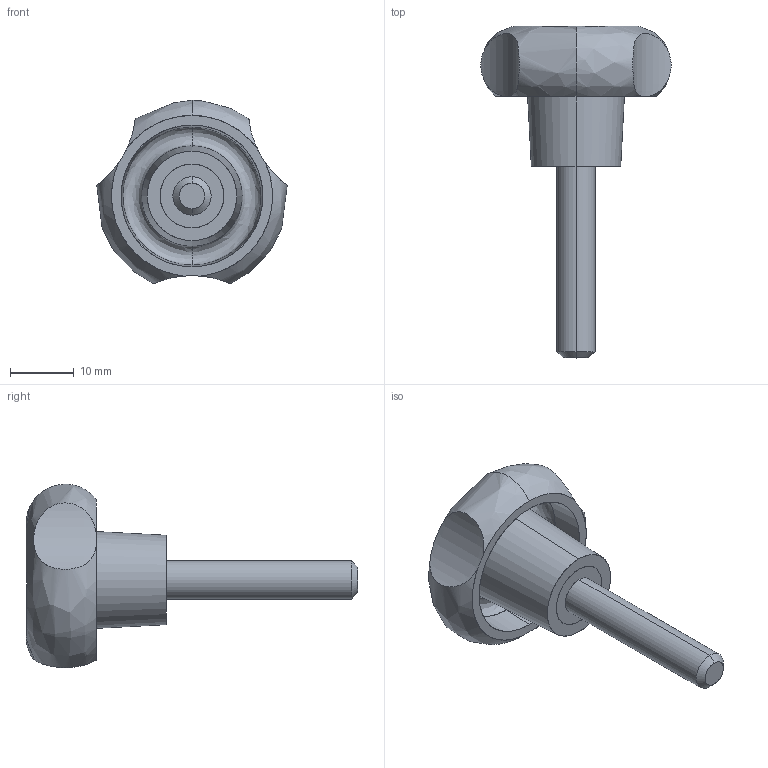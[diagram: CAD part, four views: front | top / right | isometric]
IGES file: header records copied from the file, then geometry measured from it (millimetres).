
Start section: SolidWorks IGES file using analytic representation for surfaces
Global section: file name: C:\Documents and Settings\IanO.IANOHOME\My Documents\Wix and Auto CAD Work\CAD Models\Parametric Models\Wix Models\7059\7059_IGES\7059.W062.igs; native system: SolidWorks 2009; preprocessor: SolidWorks 2009; author: IanO; date: 100907.123630; units: millimetre
Bounding box: 29.81 x 52 x 28.74 mm (x, y, z)
Surface area: 4814 mm2 (no closed solid volume)
Topology: 0 solids, 0 shells, 26 faces, 610 edges, 610 vertices
Faces by surface type: revolution 15, bspline 11
